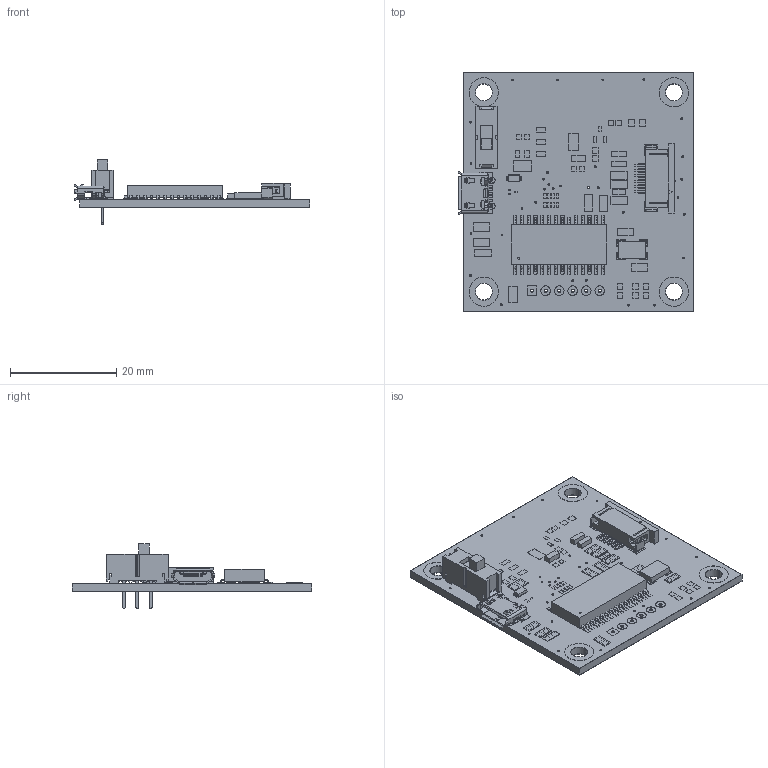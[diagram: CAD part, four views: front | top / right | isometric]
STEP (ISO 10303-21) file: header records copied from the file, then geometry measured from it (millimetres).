
FILE_DESCRIPTION (( 'STEP AP203' ), '1' );
FILE_NAME ('NHD-CTP-USB-ADAPTER_Rev1A.STEP', '2025-01-30T20:23:08', ( '' ), ( '' ), 'SwSTEP 2.0', 'SolidWorks 2019', '' );
FILE_SCHEMA (( 'CONFIG_CONTROL_DESIGN' ));
Products named in the file (2): NHD-CTP-USB-ADAPTER_Rev1A
Bounding box: 44.34 x 45 x 12.1 mm (x, y, z)
Surface area: 15292.8 mm2 (no closed solid volume)
Topology: 0 solids, 315 shells, 5696 faces, 15252 edges, 10120 vertices
Faces by surface type: plane 4563, cylinder 1117, torus 10, bspline 6
Entity records: 177104 total; most frequent: CARTESIAN_POINT 32787, ORIENTED_EDGE 30399, DIRECTION 28389, EDGE_CURVE 15250, LINE 12669, VECTOR 12669, VERTEX_POINT 10120, AXIS2_PLACEMENT_3D 7860
